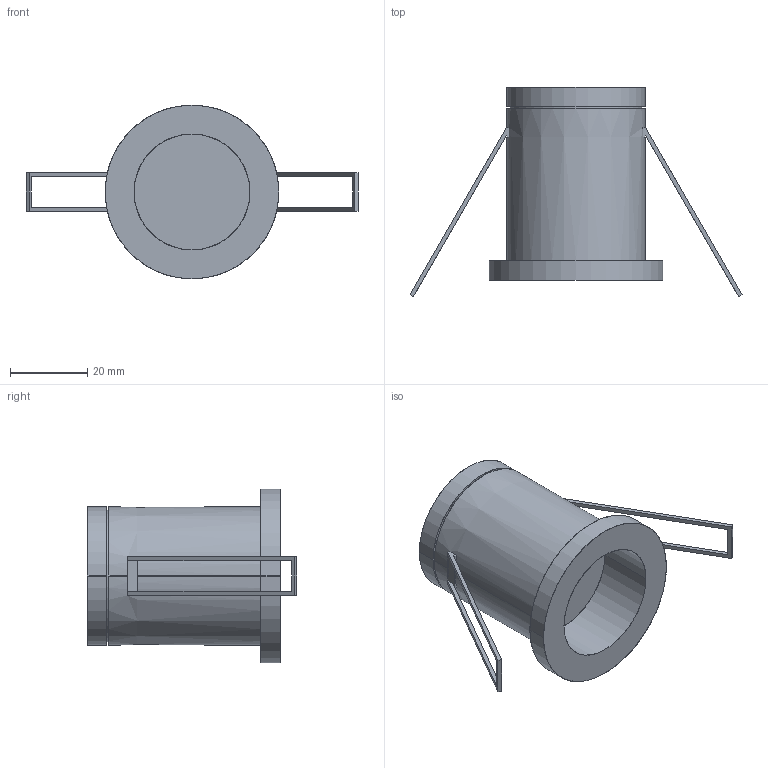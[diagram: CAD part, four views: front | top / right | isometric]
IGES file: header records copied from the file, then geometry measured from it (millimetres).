
Start section: SolidWorks IGES file using analytic representation for surfaces
Global section: file name: C:\Users\danielet\Desktop\3D CARLOS\DOT-E3949-3D\DOT-E3949-3D.IGS; native system: SolidWorks 2018; preprocessor: SolidWorks 2018; author: danielet; date: 220131.144649; units: millimetre
Bounding box: 86 x 54.3 x 45 mm (x, y, z)
Surface area: 11465.5 mm2 (no closed solid volume)
Topology: 0 solids, 0 shells, 42 faces, 844 edges, 844 vertices
Faces by surface type: bspline 32, revolution 10
